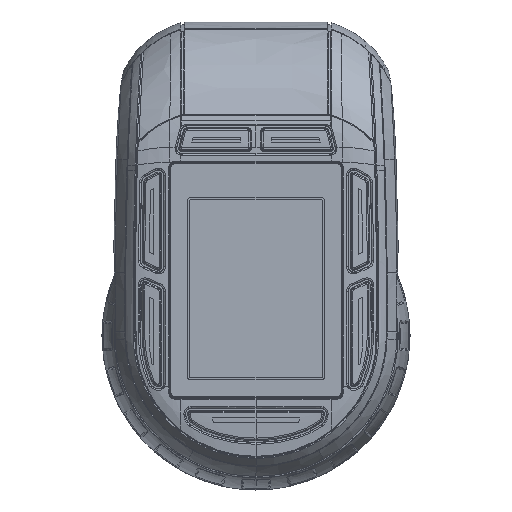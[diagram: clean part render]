
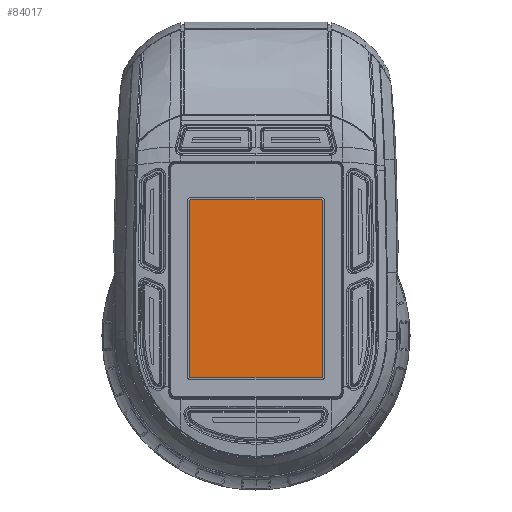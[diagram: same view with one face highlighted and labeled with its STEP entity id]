
A CAD part, top view. The second image highlights one B-rep face of the part: STEP entity #84017.
In plain terms, the highlighted planar face has unit normal (0, 0, 1).
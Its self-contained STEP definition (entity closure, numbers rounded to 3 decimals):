
#83732=CARTESIAN_POINT('Line Origine',(17.7,12.523,20.323)) ;
#83736=CARTESIAN_POINT('Vertex',(17.7,35.823,20.323)) ;
#83738=CARTESIAN_POINT('Vertex',(17.7,-10.777,20.323)) ;
#83767=CARTESIAN_POINT('Vertex',(17.3,36.223,20.323)) ;
#83770=CARTESIAN_POINT('Axis2P3D Location',(17.3,35.823,20.323)) ;
#83787=CARTESIAN_POINT('Line Origine',(0.,36.223,20.323)) ;
#83791=CARTESIAN_POINT('Vertex',(-17.3,36.223,20.323)) ;
#83815=CARTESIAN_POINT('Vertex',(-17.7,35.823,20.323)) ;
#83818=CARTESIAN_POINT('Axis2P3D Location',(-17.3,35.823,20.323)) ;
#83835=CARTESIAN_POINT('Line Origine',(-17.7,12.523,20.323)) ;
#83839=CARTESIAN_POINT('Vertex',(-17.7,-10.777,20.323)) ;
#83863=CARTESIAN_POINT('Vertex',(-17.3,-11.177,20.323)) ;
#83866=CARTESIAN_POINT('Axis2P3D Location',(-17.3,-10.777,20.323)) ;
#83883=CARTESIAN_POINT('Line Origine',(0.,-11.177,20.323)) ;
#83887=CARTESIAN_POINT('Vertex',(17.3,-11.177,20.323)) ;
#83907=CARTESIAN_POINT('Axis2P3D Location',(17.3,-10.777,20.323)) ;
#84002=CARTESIAN_POINT('Axis2P3D Location',(-17.3,36.523,20.323)) ;
#83733=DIRECTION('Vector Direction',(0.,-1.,0.)) ;
#83771=DIRECTION('Axis2P3D Direction',(0.,0.,1.)) ;
#83788=DIRECTION('Vector Direction',(1.,0.,0.)) ;
#83819=DIRECTION('Axis2P3D Direction',(0.,0.,1.)) ;
#83836=DIRECTION('Vector Direction',(0.,1.,0.)) ;
#83867=DIRECTION('Axis2P3D Direction',(0.,0.,1.)) ;
#83884=DIRECTION('Vector Direction',(-1.,0.,0.)) ;
#83908=DIRECTION('Axis2P3D Direction',(0.,0.,1.)) ;
#84003=DIRECTION('Axis2P3D Direction',(0.,0.,1.)) ;
#84004=DIRECTION('Axis2P3D XDirection',(-0.707,-0.707,0.)) ;
#83772=AXIS2_PLACEMENT_3D('Circle Axis2P3D',#83770,#83771,$) ;
#83820=AXIS2_PLACEMENT_3D('Circle Axis2P3D',#83818,#83819,$) ;
#83868=AXIS2_PLACEMENT_3D('Circle Axis2P3D',#83866,#83867,$) ;
#83909=AXIS2_PLACEMENT_3D('Circle Axis2P3D',#83907,#83908,$) ;
#84005=AXIS2_PLACEMENT_3D('Plane Axis2P3D',#84002,#84003,#84004) ;
#84008=ORIENTED_EDGE('',*,*,#83889,.F.) ;
#84009=ORIENTED_EDGE('',*,*,#83911,.T.) ;
#84010=ORIENTED_EDGE('',*,*,#83740,.F.) ;
#84011=ORIENTED_EDGE('',*,*,#83774,.T.) ;
#84012=ORIENTED_EDGE('',*,*,#83793,.F.) ;
#84013=ORIENTED_EDGE('',*,*,#83822,.T.) ;
#84014=ORIENTED_EDGE('',*,*,#83841,.F.) ;
#84015=ORIENTED_EDGE('',*,*,#83870,.T.) ;
#83734=VECTOR('Line Direction',#83733,1.) ;
#83789=VECTOR('Line Direction',#83788,1.) ;
#83837=VECTOR('Line Direction',#83836,1.) ;
#83885=VECTOR('Line Direction',#83884,1.) ;
#84017=ADVANCED_FACE('pelle esterna',(#84016),#84006,.T.) ;
#83773=CIRCLE('generated circle',#83772,0.4) ;
#83821=CIRCLE('generated circle',#83820,0.4) ;
#83869=CIRCLE('generated circle',#83868,0.4) ;
#83910=CIRCLE('generated circle',#83909,0.4) ;
#83740=EDGE_CURVE('',#83737,#83739,#83735,.T.) ;
#83774=EDGE_CURVE('',#83737,#83768,#83773,.T.) ;
#83793=EDGE_CURVE('',#83792,#83768,#83790,.T.) ;
#83822=EDGE_CURVE('',#83792,#83816,#83821,.T.) ;
#83841=EDGE_CURVE('',#83840,#83816,#83838,.T.) ;
#83870=EDGE_CURVE('',#83840,#83864,#83869,.T.) ;
#83889=EDGE_CURVE('',#83888,#83864,#83886,.T.) ;
#83911=EDGE_CURVE('',#83888,#83739,#83910,.T.) ;
#84007=EDGE_LOOP('',(#84008,#84009,#84010,#84011,#84012,#84013,#84014,#84015)) ;
#84016=FACE_OUTER_BOUND('',#84007,.T.) ;
#83735=LINE('Line',#83732,#83734) ;
#83790=LINE('Line',#83787,#83789) ;
#83838=LINE('Line',#83835,#83837) ;
#83886=LINE('Line',#83883,#83885) ;
#84006=PLANE('',#84005) ;
#83737=VERTEX_POINT('',#83736) ;
#83739=VERTEX_POINT('',#83738) ;
#83768=VERTEX_POINT('',#83767) ;
#83792=VERTEX_POINT('',#83791) ;
#83816=VERTEX_POINT('',#83815) ;
#83840=VERTEX_POINT('',#83839) ;
#83864=VERTEX_POINT('',#83863) ;
#83888=VERTEX_POINT('',#83887) ;
